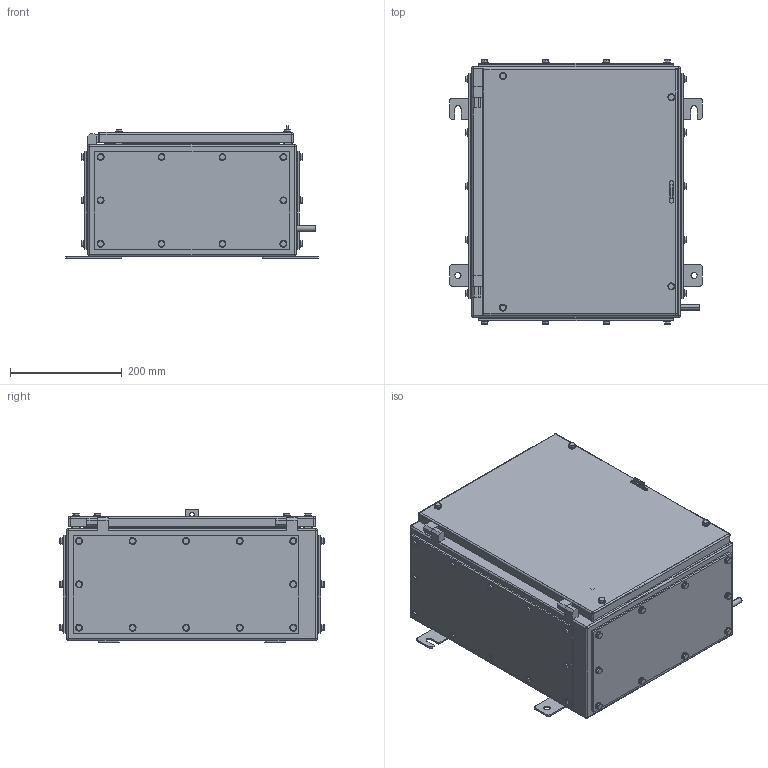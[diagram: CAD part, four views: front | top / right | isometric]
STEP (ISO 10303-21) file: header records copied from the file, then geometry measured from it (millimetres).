
FILE_DESCRIPTION (( 'STEP AP203' ), '1' );
FILE_NAME ('SX3_200_4GP.STEP', '2021-05-20T12:22:21', ( '' ), ( '' ), 'SwSTEP 2.0', 'SolidWorks 2020', '' );
FILE_SCHEMA (( 'CONFIG_CONTROL_DESIGN' ));
Length unit declared in the file: millimetre
Products named in the file (10): SX3 Door; SX3-200 Base Gasket; SX3-200 Base Gland plate; SX3-200 side Gasket; hex screw gradec_bsi_BS EN 24018 - M6 x 20-WN; SX3_200_4GP Body; SX3-200 side Gland plate; plain washer form a_bsi_Bright washer BS 4320 - M6 (Form A); SX3_200_4GP; hex screw gradec_bsi_BS EN 24018 - M6 x 16-WN
Assembly tree (106 placements, depth 2):
  SX3_200_4GP
    SX3 Door
    hex screw gradec_bsi_BS EN 24018 - M6 x 16-WN  x44
    hex screw gradec_bsi_BS EN 24018 - M6 x 20-WN  x4
    plain washer form a_bsi_Bright washer BS 4320 - M6 (Form A)  x48
    SX3_200_4GP Body
    SX3-200 Base Gland plate  x2
    SX3-200 Base Gasket  x2
    SX3-200 side Gasket  x2
    SX3-200 side Gland plate  x2
Bounding box: 452 x 471.95 x 236 mm (x, y, z)
Volume: 2291274.2 mm3; surface area: 1937311.4 mm2
Topology: 106 solids, 106 shells, 2482 faces, 5410 edges, 3272 vertices
Faces by surface type: plane 1126, cylinder 916, cone 392, sphere 40, torus 8
Entity records: 27926 total; most frequent: DIRECTION 4684, CARTESIAN_POINT 4135, ORIENTED_EDGE 3764, AXIS2_PLACEMENT_3D 1885, EDGE_CURVE 1882, VERTEX_POINT 1192, EDGE_LOOP 1074, CIRCLE 944
